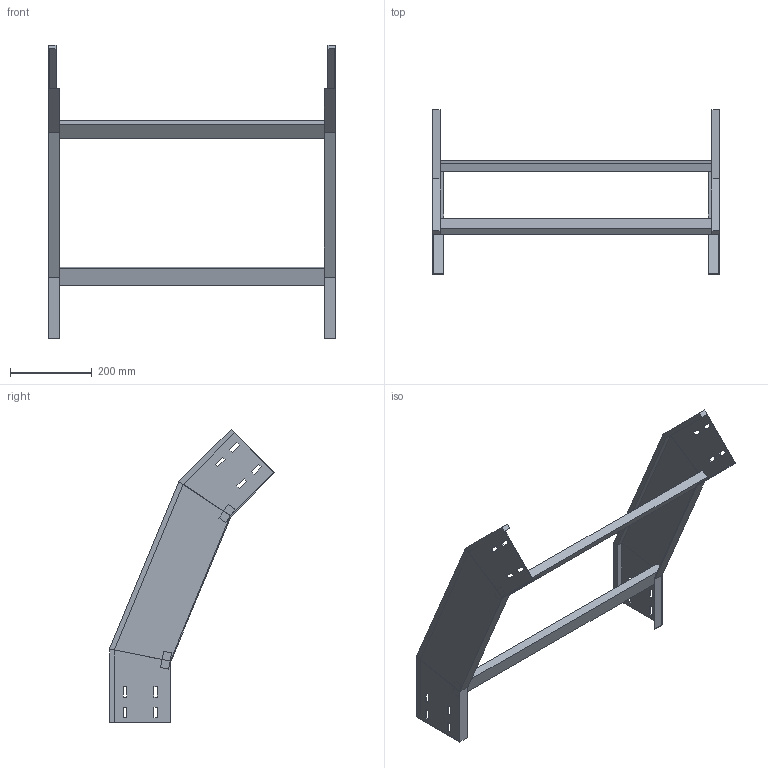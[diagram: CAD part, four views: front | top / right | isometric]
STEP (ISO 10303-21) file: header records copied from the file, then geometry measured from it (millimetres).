
FILE_DESCRIPTION (( 'STEP AP214' ), '1' );
FILE_NAME ('34J5F700.step', '2025-02-21T16:22:15', ( '' ), ( '' ), 'SwSTEP 2.0', 'SolidWorks 2023', '' );
FILE_SCHEMA (( 'AUTOMOTIVE_DESIGN' ));
Length unit declared in the file: millimetre
Products named in the file (3): 34J5F700; TRAVERSINO_700; LONGH.DISCESA_45°_H150_R500
Assembly tree (4 placements, depth 2):
  34J5F700
    LONGH.DISCESA_45°_H150_R500  x2
    TRAVERSINO_700  x2
Bounding box: 700 x 402.63 x 715.98 mm (x, y, z)
Volume: 1940572 mm3; surface area: 739785.9 mm2
Topology: 4 solids, 4 shells, 128 faces, 328 edges, 208 vertices
Faces by surface type: plane 128
Entity records: 2016 total; most frequent: CARTESIAN_POINT 339, ORIENTED_EDGE 328, DIRECTION 306, LINE 164, EDGE_CURVE 164, VECTOR 164, VERTEX_POINT 104, EDGE_LOOP 80
